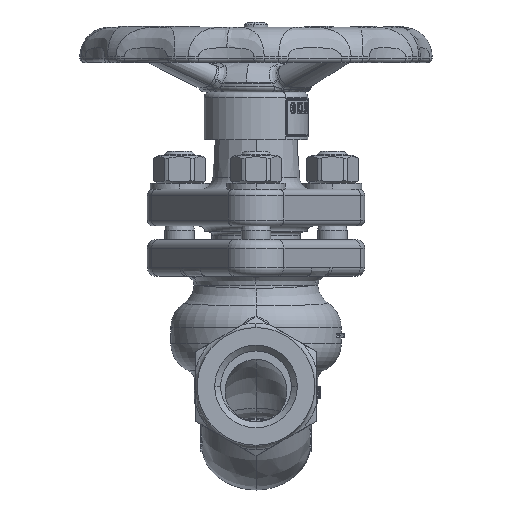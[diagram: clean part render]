
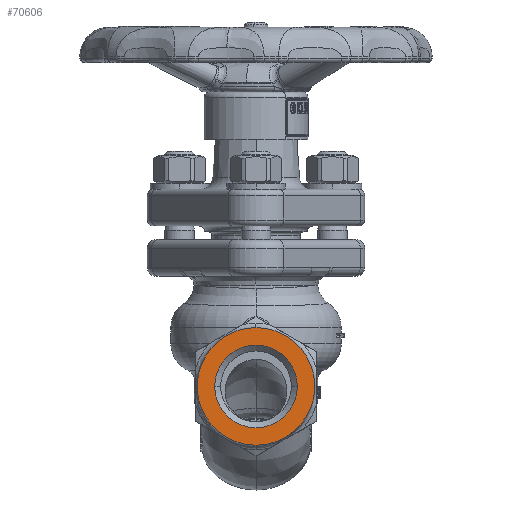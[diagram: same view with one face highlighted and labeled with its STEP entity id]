
A CAD part, left-side view. The second image highlights one B-rep face of the part: STEP entity #70606.
In plain terms, the highlighted planar face has unit normal (-1, 0, 0).
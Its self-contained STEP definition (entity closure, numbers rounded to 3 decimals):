
#17805=CARTESIAN_POINT('',(-60.,0.,0.));
#17806=DIRECTION('',(-1.,0.,0.));
#17807=DIRECTION('',(0.,0.,1.));
#17808=AXIS2_PLACEMENT_3D('',#17805,#17806,#17807);
#17875=CARTESIAN_POINT('',(-60.,0.,0.));
#17876=DIRECTION('',(1.,0.,0.));
#17877=DIRECTION('',(0.,-1.,0.));
#17878=AXIS2_PLACEMENT_3D('',#17875,#17876,#17877);
#17880=CARTESIAN_POINT('',(-60.,0.,0.));
#17881=DIRECTION('',(1.,0.,0.));
#17882=DIRECTION('',(0.,1.,0.));
#17883=AXIS2_PLACEMENT_3D('',#17880,#17881,#17882);
#17885=CARTESIAN_POINT('',(-60.,0.,0.));
#17886=DIRECTION('',(-1.,0.,0.));
#17887=DIRECTION('',(0.,0.,-1.));
#17888=AXIS2_PLACEMENT_3D('',#17885,#17886,#17887);
#32909=CARTESIAN_POINT('',(-60.,0.,-20.004));
#32910=CARTESIAN_POINT('',(-60.,0.,20.004));
#32911=VERTEX_POINT('',#32909);
#32912=VERTEX_POINT('',#32910);
#32935=CARTESIAN_POINT('',(-60.,-14.059,0.));
#32936=CARTESIAN_POINT('',(-60.,14.059,0.));
#32937=VERTEX_POINT('',#32935);
#32938=VERTEX_POINT('',#32936);
#70590=CARTESIAN_POINT('',(-60.,0.,0.));
#70591=DIRECTION('',(-1.,0.,0.));
#70592=DIRECTION('',(0.,0.,1.));
#70593=AXIS2_PLACEMENT_3D('',#70590,#70591,#70592);
#70594=PLANE('',#70593);
#70596=ORIENTED_EDGE('',*,*,#70595,.F.);
#70597=ORIENTED_EDGE('',*,*,#70571,.F.);
#70598=EDGE_LOOP('',(#70596,#70597));
#70599=FACE_OUTER_BOUND('',#70598,.F.);
#70601=ORIENTED_EDGE('',*,*,#70600,.F.);
#70603=ORIENTED_EDGE('',*,*,#70602,.F.);
#70604=EDGE_LOOP('',(#70601,#70603));
#70605=FACE_BOUND('',#70604,.F.);
#70606=ADVANCED_FACE('',(#70599,#70605),#70594,.T.);
#17809=CIRCLE('',#17808,20.004);
#17879=CIRCLE('',#17878,14.059);
#17884=CIRCLE('',#17883,14.059);
#17889=CIRCLE('',#17888,20.004);
#70571=EDGE_CURVE('',#32912,#32911,#17809,.T.);
#70595=EDGE_CURVE('',#32911,#32912,#17889,.T.);
#70600=EDGE_CURVE('',#32937,#32938,#17879,.T.);
#70602=EDGE_CURVE('',#32938,#32937,#17884,.T.);
